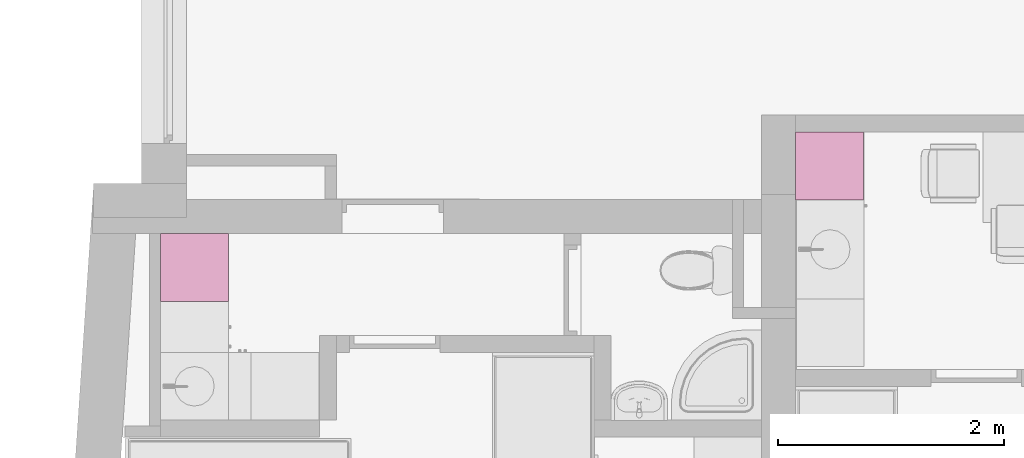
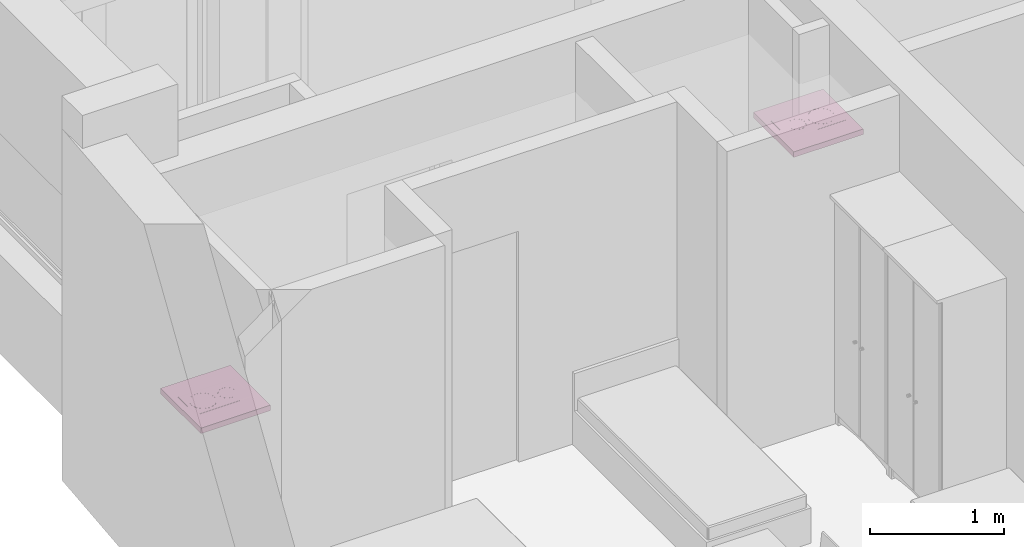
# One storey, part 149 of 165: 2 furnishings.
"""IFC2X3 building model written with IfcOpenShell, lengths in millimetres."""

from ifc_helpers import new_model, entity, si_unit, converted_unit, money_unit, direction, frame, origin_with_axes, place, context, subcontext, project, spatial, faceted_brep, source, transform, mapped, material, material_list, type_object, element, save


model = new_model("IFC2X3")

# Units and contexts
model_context = context("Model", 3, precision=1e-05, world=origin_with_axes(), true_north=direction((0.0, 1.0)))
body_context = subcontext(model_context, "Body", "Model", "MODEL_VIEW")
ifc_project = project(units=[si_unit("LENGTHUNIT", "METRE", prefix="MILLI"), si_unit("AREAUNIT", "SQUARE_METRE"), si_unit("VOLUMEUNIT", "CUBIC_METRE"), converted_unit("PLANEANGLEUNIT", "DEGREE", entity("IfcPlaneAngleMeasure", 0.0174532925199), si_unit("PLANEANGLEUNIT", "RADIAN"), dimensions=[0, 0, 0, 0, 0, 0, 0]), si_unit("SOLIDANGLEUNIT", "STERADIAN"), money_unit("USD"), converted_unit("TIMEUNIT", "Year", entity("IfcTimeMeasure", 31556926.0), si_unit("TIMEUNIT", "SECOND"), dimensions=[0, 0, 0, 0, 0, 0, 0]), si_unit("MASSUNIT", "GRAM"), si_unit("THERMODYNAMICTEMPERATUREUNIT", "DEGREE_CELSIUS"), si_unit("LUMINOUSINTENSITYUNIT", "LUMEN")], contexts=[model_context])

# Site, building, storey
site_placement = place(None, origin_with_axes())
site = spatial("IfcSite", under=ifc_project, at=site_placement, Name="Site", CompositionType="ELEMENT")
building_placement = place(site_placement, origin_with_axes())
building = spatial("IfcBuilding", under=site, at=building_placement, Name="Building", CompositionType="ELEMENT")
storey_placement = place(building_placement, frame((0.0, 0.0, 6300.0), z_axis=(0.0, 0.0, 1.0), x_axis=(1.0, 0.0, 0.0)))
storey = spatial("IfcBuildingStorey", under=building, at=storey_placement, Name="4KORRUS", CompositionType="ELEMENT", Elevation=6300.0)

# Furnishings
ifc_material = material(Name="Background")
ifc_material_list = material_list([ifc_material])
furnishing_element_type = type_object("IfcFurnishingElementType", Name="Built-in Cooktops 19")
shared_shape_1 = source(origin_with_axes(), body_context, "Body", "Brep", [
    faceted_brep([(0.0, 0.0, 850.0), (600.0, 0.0, 850.0), (600.0, 0.0, 900.0), (0.0, 0.0, 900.0), (0.0, 600.0, 850.0), (600.0, 600.0, 850.0), (600.0, 600.0, 900.0), (0.0, 600.0, 900.0)], [[[0, 1, 2, 3]], [[0, 4, 5, 1]], [[1, 5, 6, 2]], [[3, 2, 6, 7]], [[4, 0, 3, 7]], [[5, 4, 7, 6]]]),
    faceted_brep([(165.0, 55.0, 900.0), (165.0, 545.0, 900.0), (435.0, 545.0, 900.0), (435.0, 55.0, 900.0), (165.0, 55.0, 900.8), (165.0, 545.0, 900.8), (435.0, 545.0, 900.8), (435.0, 55.0, 900.8), (171.806, 61.806, 902.0), (171.806, 538.194, 902.0), (428.194, 538.194, 902.0), (428.194, 61.806, 902.0)], [[[0, 1, 2, 3]], [[1, 0, 4, 5]], [[2, 1, 5, 6]], [[3, 2, 6, 7]], [[0, 3, 7, 4]], [[5, 4, 8, 9]], [[6, 5, 9, 10]], [[7, 6, 10, 11]], [[4, 7, 11, 8]], [[10, 9, 8, 11]]]),
    faceted_brep([(195.0, 409.27, 902.0), (209.067, 356.77, 902.0), (209.067, 356.77, 903.0), (195.0, 409.27, 903.0), (209.067, 461.77, 902.0), (247.5, 500.203, 902.0), (300.0, 514.27, 902.0), (352.5, 500.203, 902.0), (390.933, 461.77, 902.0), (405.0, 409.27, 902.0), (390.933, 356.77, 902.0), (352.5, 318.337, 902.0), (300.0, 304.27, 902.0), (247.5, 318.337, 902.0), (200.0, 409.27, 902.0), (213.397, 359.27, 902.0), (250.0, 322.667, 902.0), (300.0, 309.27, 902.0), (350.0, 322.667, 902.0), (386.603, 359.27, 902.0), (400.0, 409.27, 902.0), (386.603, 459.27, 902.0), (350.0, 495.873, 902.0), (300.0, 509.27, 902.0), (250.0, 495.873, 902.0), (213.397, 459.27, 902.0), (247.5, 318.337, 903.0), (300.0, 304.27, 903.0), (352.5, 318.337, 903.0), (390.933, 356.77, 903.0), (405.0, 409.27, 903.0), (390.933, 461.77, 903.0), (352.5, 500.203, 903.0), (300.0, 514.27, 903.0), (247.5, 500.203, 903.0), (209.067, 461.77, 903.0), (200.0, 409.27, 903.0), (213.397, 459.27, 903.0), (250.0, 495.873, 903.0), (300.0, 509.27, 903.0), (350.0, 495.873, 903.0), (386.603, 459.27, 903.0), (400.0, 409.27, 903.0), (386.603, 359.27, 903.0), (350.0, 322.667, 903.0), (300.0, 309.27, 903.0), (250.0, 322.667, 903.0), (213.397, 359.27, 903.0)], [[[0, 1, 2, 3]], [[0, 4, 5, 6, 7, 8, 9, 10, 11, 12, 13, 1], [14, 15, 16, 17, 18, 19, 20, 21, 22, 23, 24, 25]], [[1, 13, 26, 2]], [[3, 2, 26, 27, 28, 29, 30, 31, 32, 33, 34, 35], [36, 37, 38, 39, 40, 41, 42, 43, 44, 45, 46, 47]], [[4, 0, 3, 35]], [[5, 4, 35, 34]], [[6, 5, 34, 33]], [[7, 6, 33, 32]], [[8, 7, 32, 31]], [[9, 8, 31, 30]], [[10, 9, 30, 29]], [[11, 10, 29, 28]], [[12, 11, 28, 27]], [[13, 12, 27, 26]], [[15, 14, 36, 47]], [[16, 15, 47, 46]], [[17, 16, 46, 45]], [[18, 17, 45, 44]], [[19, 18, 44, 43]], [[20, 19, 43, 42]], [[21, 20, 42, 41]], [[22, 21, 41, 40]], [[23, 22, 40, 39]], [[24, 23, 39, 38]], [[25, 24, 38, 37]], [[14, 25, 37, 36]]]),
    faceted_brep([(227.5, 200.53, 902.0), (237.213, 164.28, 902.0), (237.213, 164.28, 903.0), (227.5, 200.53, 903.0), (237.213, 236.78, 902.0), (263.75, 263.317, 902.0), (300.0, 273.03, 902.0), (336.25, 263.317, 902.0), (362.787, 236.78, 902.0), (372.5, 200.53, 902.0), (362.787, 164.28, 902.0), (336.25, 137.743, 902.0), (300.0, 128.03, 902.0), (263.75, 137.743, 902.0), (232.5, 200.53, 902.0), (241.543, 166.78, 902.0), (266.25, 142.073, 902.0), (300.0, 133.03, 902.0), (333.75, 142.073, 902.0), (358.457, 166.78, 902.0), (367.5, 200.53, 902.0), (358.457, 234.28, 902.0), (333.75, 258.987, 902.0), (300.0, 268.03, 902.0), (266.25, 258.987, 902.0), (241.543, 234.28, 902.0), (263.75, 137.743, 903.0), (300.0, 128.03, 903.0), (336.25, 137.743, 903.0), (362.787, 164.28, 903.0), (372.5, 200.53, 903.0), (362.787, 236.78, 903.0), (336.25, 263.317, 903.0), (300.0, 273.03, 903.0), (263.75, 263.317, 903.0), (237.213, 236.78, 903.0), (232.5, 200.53, 903.0), (241.543, 234.28, 903.0), (266.25, 258.987, 903.0), (300.0, 268.03, 903.0), (333.75, 258.987, 903.0), (358.457, 234.28, 903.0), (367.5, 200.53, 903.0), (358.457, 166.78, 903.0), (333.75, 142.073, 903.0), (300.0, 133.03, 903.0), (266.25, 142.073, 903.0), (241.543, 166.78, 903.0)], [[[0, 1, 2, 3]], [[0, 4, 5, 6, 7, 8, 9, 10, 11, 12, 13, 1], [14, 15, 16, 17, 18, 19, 20, 21, 22, 23, 24, 25]], [[1, 13, 26, 2]], [[3, 2, 26, 27, 28, 29, 30, 31, 32, 33, 34, 35], [36, 37, 38, 39, 40, 41, 42, 43, 44, 45, 46, 47]], [[4, 0, 3, 35]], [[5, 4, 35, 34]], [[6, 5, 34, 33]], [[7, 6, 33, 32]], [[8, 7, 32, 31]], [[9, 8, 31, 30]], [[10, 9, 30, 29]], [[11, 10, 29, 28]], [[12, 11, 28, 27]], [[13, 12, 27, 26]], [[15, 14, 36, 47]], [[16, 15, 47, 46]], [[17, 16, 46, 45]], [[18, 17, 45, 44]], [[19, 18, 44, 43]], [[20, 19, 43, 42]], [[21, 20, 42, 41]], [[22, 21, 41, 40]], [[23, 22, 40, 39]], [[24, 23, 39, 38]], [[25, 24, 38, 37]], [[14, 25, 37, 36]]]),
])
furnishing_1_placement = place(storey_placement, frame((-53008.4921105, -14687.3375674, 0.0), z_axis=(0.0, 0.0, 1.0), x_axis=(0.0, 1.0, 0.0)))
element("IfcFurnishingElement", 1, at=furnishing_1_placement, inside=storey, type_object=furnishing_element_type, material=ifc_material_list, Name="FU - 007", context=body_context, shape_type="MappedRepresentation", body=[
    mapped(shared_shape_1, transform((0.0, 0.0, 0.0))),
])
shared_shape_2 = source(origin_with_axes(), body_context, "Body", "Brep", [
    faceted_brep([(0.0, 0.0, 850.0), (0.0, 0.0, 900.0), (-600.0, 0.0, 900.0), (-600.0, 0.0, 850.0), (0.0, 600.0, 850.0), (0.0, 600.0, 900.0), (-600.0, 600.0, 900.0), (-600.0, 600.0, 850.0)], [[[0, 1, 2, 3]], [[4, 5, 1, 0]], [[1, 5, 6, 2]], [[3, 2, 6, 7]], [[0, 3, 7, 4]], [[7, 6, 5, 4]]]),
    faceted_brep([(-165.0, 55.0, 900.0), (-435.0, 55.0, 900.0), (-435.0, 545.0, 900.0), (-165.0, 545.0, 900.0), (-165.0, 55.0, 900.8), (-435.0, 55.0, 900.8), (-435.0, 545.0, 900.8), (-165.0, 545.0, 900.8), (-171.806, 61.806, 902.0), (-428.194, 61.806, 902.0), (-428.194, 538.194, 902.0), (-171.806, 538.194, 902.0)], [[[0, 1, 2, 3]], [[0, 4, 5, 1]], [[1, 5, 6, 2]], [[2, 6, 7, 3]], [[3, 7, 4, 0]], [[4, 8, 9, 5]], [[5, 9, 10, 6]], [[6, 10, 11, 7]], [[7, 11, 8, 4]], [[10, 9, 8, 11]]]),
    faceted_brep([(-195.0, 409.27, 902.0), (-195.0, 409.27, 903.0), (-209.067, 356.77, 903.0), (-209.067, 356.77, 902.0), (-209.067, 461.77, 902.0), (-209.067, 461.77, 903.0), (-247.5, 500.203, 903.0), (-300.0, 514.27, 903.0), (-352.5, 500.203, 903.0), (-390.933, 461.77, 903.0), (-405.0, 409.27, 903.0), (-390.933, 356.77, 903.0), (-352.5, 318.337, 903.0), (-300.0, 304.27, 903.0), (-247.5, 318.337, 903.0), (-200.0, 409.27, 903.0), (-213.397, 359.27, 903.0), (-250.0, 322.667, 903.0), (-300.0, 309.27, 903.0), (-350.0, 322.667, 903.0), (-386.603, 359.27, 903.0), (-400.0, 409.27, 903.0), (-386.603, 459.27, 903.0), (-350.0, 495.873, 903.0), (-300.0, 509.27, 903.0), (-250.0, 495.873, 903.0), (-213.397, 459.27, 903.0), (-247.5, 318.337, 902.0), (-300.0, 304.27, 902.0), (-352.5, 318.337, 902.0), (-390.933, 356.77, 902.0), (-405.0, 409.27, 902.0), (-390.933, 461.77, 902.0), (-352.5, 500.203, 902.0), (-300.0, 514.27, 902.0), (-247.5, 500.203, 902.0), (-200.0, 409.27, 902.0), (-213.397, 459.27, 902.0), (-250.0, 495.873, 902.0), (-300.0, 509.27, 902.0), (-350.0, 495.873, 902.0), (-386.603, 459.27, 902.0), (-400.0, 409.27, 902.0), (-386.603, 359.27, 902.0), (-350.0, 322.667, 902.0), (-300.0, 309.27, 902.0), (-250.0, 322.667, 902.0), (-213.397, 359.27, 902.0)], [[[0, 1, 2, 3]], [[4, 5, 1, 0]], [[1, 5, 6, 7, 8, 9, 10, 11, 12, 13, 14, 2], [15, 16, 17, 18, 19, 20, 21, 22, 23, 24, 25, 26]], [[3, 2, 14, 27]], [[0, 3, 27, 28, 29, 30, 31, 32, 33, 34, 35, 4], [36, 37, 38, 39, 40, 41, 42, 43, 44, 45, 46, 47]], [[35, 6, 5, 4]], [[34, 7, 6, 35]], [[33, 8, 7, 34]], [[32, 9, 8, 33]], [[31, 10, 9, 32]], [[30, 11, 10, 31]], [[29, 12, 11, 30]], [[28, 13, 12, 29]], [[27, 14, 13, 28]], [[47, 16, 15, 36]], [[46, 17, 16, 47]], [[45, 18, 17, 46]], [[44, 19, 18, 45]], [[43, 20, 19, 44]], [[42, 21, 20, 43]], [[41, 22, 21, 42]], [[40, 23, 22, 41]], [[39, 24, 23, 40]], [[38, 25, 24, 39]], [[37, 26, 25, 38]], [[36, 15, 26, 37]]]),
    faceted_brep([(-227.5, 200.53, 902.0), (-227.5, 200.53, 903.0), (-237.213, 164.28, 903.0), (-237.213, 164.28, 902.0), (-237.213, 236.78, 902.0), (-237.213, 236.78, 903.0), (-263.75, 263.317, 903.0), (-300.0, 273.03, 903.0), (-336.25, 263.317, 903.0), (-362.787, 236.78, 903.0), (-372.5, 200.53, 903.0), (-362.787, 164.28, 903.0), (-336.25, 137.743, 903.0), (-300.0, 128.03, 903.0), (-263.75, 137.743, 903.0), (-232.5, 200.53, 903.0), (-241.543, 166.78, 903.0), (-266.25, 142.073, 903.0), (-300.0, 133.03, 903.0), (-333.75, 142.073, 903.0), (-358.457, 166.78, 903.0), (-367.5, 200.53, 903.0), (-358.457, 234.28, 903.0), (-333.75, 258.987, 903.0), (-300.0, 268.03, 903.0), (-266.25, 258.987, 903.0), (-241.543, 234.28, 903.0), (-263.75, 137.743, 902.0), (-300.0, 128.03, 902.0), (-336.25, 137.743, 902.0), (-362.787, 164.28, 902.0), (-372.5, 200.53, 902.0), (-362.787, 236.78, 902.0), (-336.25, 263.317, 902.0), (-300.0, 273.03, 902.0), (-263.75, 263.317, 902.0), (-232.5, 200.53, 902.0), (-241.543, 234.28, 902.0), (-266.25, 258.987, 902.0), (-300.0, 268.03, 902.0), (-333.75, 258.987, 902.0), (-358.457, 234.28, 902.0), (-367.5, 200.53, 902.0), (-358.457, 166.78, 902.0), (-333.75, 142.073, 902.0), (-300.0, 133.03, 902.0), (-266.25, 142.073, 902.0), (-241.543, 166.78, 902.0)], [[[0, 1, 2, 3]], [[4, 5, 1, 0]], [[1, 5, 6, 7, 8, 9, 10, 11, 12, 13, 14, 2], [15, 16, 17, 18, 19, 20, 21, 22, 23, 24, 25, 26]], [[3, 2, 14, 27]], [[0, 3, 27, 28, 29, 30, 31, 32, 33, 34, 35, 4], [36, 37, 38, 39, 40, 41, 42, 43, 44, 45, 46, 47]], [[35, 6, 5, 4]], [[34, 7, 6, 35]], [[33, 8, 7, 34]], [[32, 9, 8, 33]], [[31, 10, 9, 32]], [[30, 11, 10, 31]], [[29, 12, 11, 30]], [[28, 13, 12, 29]], [[27, 14, 13, 28]], [[47, 16, 15, 36]], [[46, 17, 16, 47]], [[45, 18, 17, 46]], [[44, 19, 18, 45]], [[43, 20, 19, 44]], [[42, 21, 20, 43]], [[41, 22, 21, 42]], [[40, 23, 22, 41]], [[39, 24, 23, 40]], [[38, 25, 24, 39]], [[37, 26, 25, 38]], [[36, 15, 26, 37]]]),
])
furnishing_2_placement = place(storey_placement, frame((-47990.2967033, -13789.2398994, 0.0), z_axis=(0.0, 0.0, 1.0), x_axis=(0.0, -1.0, 0.0)))
element("IfcFurnishingElement", 2, at=furnishing_2_placement, inside=storey, type_object=furnishing_element_type, material=ifc_material_list, Name="FU - 007", context=body_context, shape_type="MappedRepresentation", body=[
    mapped(shared_shape_2, transform((0.0, 0.0, 0.0))),
])

save(model, "model.ifc")
